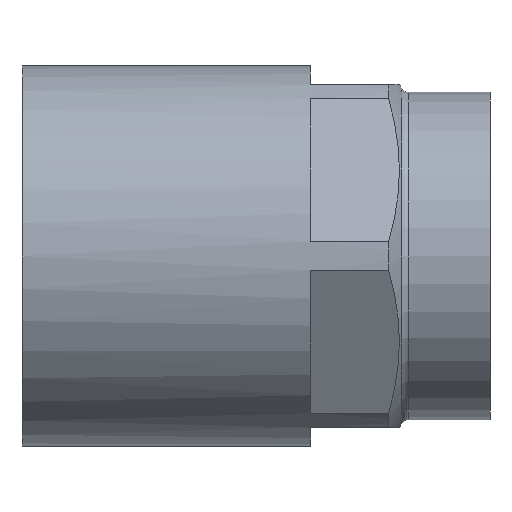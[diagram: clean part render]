
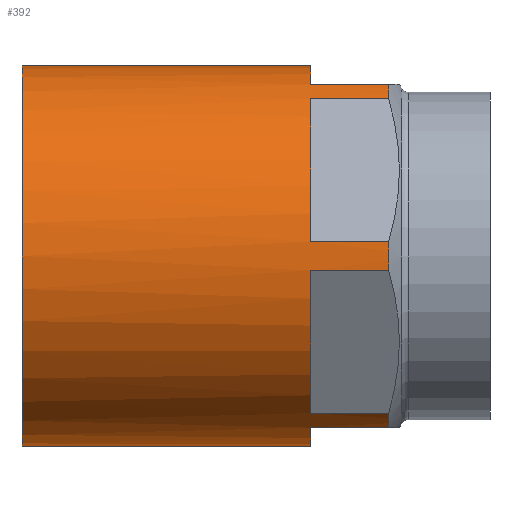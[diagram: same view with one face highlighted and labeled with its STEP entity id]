
A CAD part, front view. The second image highlights one B-rep face of the part: STEP entity #392.
In plain terms, the highlighted cylindrical face has radius 12.2 mm (diameter 24.4 mm), a full revolution.
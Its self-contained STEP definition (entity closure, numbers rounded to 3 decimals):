
#20=FACE_BOUND('',#105,.T.);
#35=CYLINDRICAL_SURFACE('',#426,12.2);
#41=CIRCLE('',#416,12.2);
#42=CIRCLE('',#418,12.2);
#43=CIRCLE('',#420,12.2);
#44=CIRCLE('',#422,12.2);
#45=CIRCLE('',#424,12.2);
#46=CIRCLE('',#427,12.2);
#47=CIRCLE('',#428,12.2);
#48=CIRCLE('',#429,12.2);
#49=CIRCLE('',#430,12.2);
#50=CIRCLE('',#431,12.2);
#51=CIRCLE('',#432,12.2);
#52=CIRCLE('',#433,12.2);
#53=CIRCLE('',#434,12.2);
#77=FACE_OUTER_BOUND('',#104,.T.);
#104=EDGE_LOOP('',(#296));
#105=EDGE_LOOP('',(#297,#298,#299,#300,#301,#302,#303,#304,#305,#306,#307,
#308,#309,#310,#311,#312,#313,#314,#315,#316,#317,#318,#319,#320));
#142=LINE('',#594,#160);
#144=LINE('',#598,#162);
#145=LINE('',#605,#163);
#147=LINE('',#609,#165);
#148=LINE('',#616,#166);
#150=LINE('',#620,#168);
#151=LINE('',#627,#169);
#153=LINE('',#631,#171);
#155=LINE('',#650,#173);
#156=LINE('',#655,#174);
#157=LINE('',#666,#175);
#158=LINE('',#670,#176);
#160=VECTOR('',#468,5.);
#162=VECTOR('',#470,5.);
#163=VECTOR('',#473,5.);
#165=VECTOR('',#475,5.);
#166=VECTOR('',#478,5.);
#168=VECTOR('',#480,5.);
#169=VECTOR('',#483,5.);
#171=VECTOR('',#485,5.);
#173=VECTOR('',#509,5.);
#174=VECTOR('',#510,5.);
#175=VECTOR('',#525,5.);
#176=VECTOR('',#528,5.);
#178=VERTEX_POINT('',#592);
#179=VERTEX_POINT('',#593);
#180=VERTEX_POINT('',#595);
#181=VERTEX_POINT('',#597);
#182=VERTEX_POINT('',#603);
#183=VERTEX_POINT('',#604);
#184=VERTEX_POINT('',#606);
#185=VERTEX_POINT('',#608);
#186=VERTEX_POINT('',#614);
#187=VERTEX_POINT('',#615);
#188=VERTEX_POINT('',#617);
#189=VERTEX_POINT('',#619);
#190=VERTEX_POINT('',#625);
#191=VERTEX_POINT('',#626);
#192=VERTEX_POINT('',#628);
#193=VERTEX_POINT('',#630);
#194=VERTEX_POINT('',#644);
#195=VERTEX_POINT('',#645);
#196=VERTEX_POINT('',#649);
#197=VERTEX_POINT('',#651);
#198=VERTEX_POINT('',#657);
#199=VERTEX_POINT('',#663);
#200=VERTEX_POINT('',#665);
#201=VERTEX_POINT('',#667);
#202=VERTEX_POINT('',#669);
#216=EDGE_CURVE('',#178,#179,#142,.T.);
#218=EDGE_CURVE('',#181,#180,#144,.T.);
#220=EDGE_CURVE('',#182,#183,#145,.T.);
#222=EDGE_CURVE('',#185,#184,#147,.T.);
#224=EDGE_CURVE('',#186,#187,#148,.T.);
#226=EDGE_CURVE('',#189,#188,#150,.T.);
#228=EDGE_CURVE('',#190,#191,#151,.T.);
#230=EDGE_CURVE('',#193,#192,#153,.T.);
#232=EDGE_CURVE('',#184,#182,#41,.T.);
#233=EDGE_CURVE('',#188,#186,#42,.T.);
#234=EDGE_CURVE('',#192,#190,#43,.T.);
#235=EDGE_CURVE('',#180,#178,#44,.T.);
#236=EDGE_CURVE('',#194,#195,#45,.T.);
#238=EDGE_CURVE('',#196,#194,#155,.T.);
#240=EDGE_CURVE('',#195,#197,#156,.T.);
#241=EDGE_CURVE('',#198,#198,#46,.T.);
#242=EDGE_CURVE('',#185,#197,#47,.T.);
#243=EDGE_CURVE('',#189,#183,#48,.T.);
#244=EDGE_CURVE('',#193,#187,#49,.T.);
#245=EDGE_CURVE('',#181,#191,#50,.T.);
#246=EDGE_CURVE('',#199,#179,#51,.T.);
#247=EDGE_CURVE('',#199,#200,#157,.T.);
#248=EDGE_CURVE('',#200,#201,#52,.T.);
#249=EDGE_CURVE('',#201,#202,#158,.T.);
#250=EDGE_CURVE('',#196,#202,#53,.T.);
#296=ORIENTED_EDGE('',*,*,#241,.T.);
#297=ORIENTED_EDGE('',*,*,#238,.T.);
#298=ORIENTED_EDGE('',*,*,#236,.T.);
#299=ORIENTED_EDGE('',*,*,#240,.T.);
#300=ORIENTED_EDGE('',*,*,#242,.F.);
#301=ORIENTED_EDGE('',*,*,#222,.T.);
#302=ORIENTED_EDGE('',*,*,#232,.T.);
#303=ORIENTED_EDGE('',*,*,#220,.T.);
#304=ORIENTED_EDGE('',*,*,#243,.F.);
#305=ORIENTED_EDGE('',*,*,#226,.T.);
#306=ORIENTED_EDGE('',*,*,#233,.T.);
#307=ORIENTED_EDGE('',*,*,#224,.T.);
#308=ORIENTED_EDGE('',*,*,#244,.F.);
#309=ORIENTED_EDGE('',*,*,#230,.T.);
#310=ORIENTED_EDGE('',*,*,#234,.T.);
#311=ORIENTED_EDGE('',*,*,#228,.T.);
#312=ORIENTED_EDGE('',*,*,#245,.F.);
#313=ORIENTED_EDGE('',*,*,#218,.T.);
#314=ORIENTED_EDGE('',*,*,#235,.T.);
#315=ORIENTED_EDGE('',*,*,#216,.T.);
#316=ORIENTED_EDGE('',*,*,#246,.F.);
#317=ORIENTED_EDGE('',*,*,#247,.T.);
#318=ORIENTED_EDGE('',*,*,#248,.T.);
#319=ORIENTED_EDGE('',*,*,#249,.T.);
#320=ORIENTED_EDGE('',*,*,#250,.F.);
#392=ADVANCED_FACE('',(#77,#20),#35,.T.);
#416=AXIS2_PLACEMENT_3D('',#636,#488,#489);
#418=AXIS2_PLACEMENT_3D('',#638,#492,#493);
#420=AXIS2_PLACEMENT_3D('',#640,#496,#497);
#422=AXIS2_PLACEMENT_3D('',#642,#500,#501);
#424=AXIS2_PLACEMENT_3D('',#646,#504,#505);
#426=AXIS2_PLACEMENT_3D('',#656,#511,#512);
#427=AXIS2_PLACEMENT_3D('',#658,#513,#514);
#428=AXIS2_PLACEMENT_3D('',#659,#515,#516);
#429=AXIS2_PLACEMENT_3D('',#660,#517,#518);
#430=AXIS2_PLACEMENT_3D('',#661,#519,#520);
#431=AXIS2_PLACEMENT_3D('',#662,#521,#522);
#432=AXIS2_PLACEMENT_3D('',#664,#523,#524);
#433=AXIS2_PLACEMENT_3D('',#668,#526,#527);
#434=AXIS2_PLACEMENT_3D('',#671,#529,#530);
#468=DIRECTION('',(1.,0.,0.));
#470=DIRECTION('',(-1.,0.,0.));
#473=DIRECTION('',(1.,0.,0.));
#475=DIRECTION('',(-1.,0.,0.));
#478=DIRECTION('',(1.,0.,0.));
#480=DIRECTION('',(-1.,0.,0.));
#483=DIRECTION('',(1.,0.,0.));
#485=DIRECTION('',(-1.,0.,0.));
#488=DIRECTION('center_axis',(-1.,0.,0.));
#489=DIRECTION('ref_axis',(0.,1.,0.));
#492=DIRECTION('center_axis',(-1.,0.,0.));
#493=DIRECTION('ref_axis',(0.,1.,0.));
#496=DIRECTION('center_axis',(-1.,0.,0.));
#497=DIRECTION('ref_axis',(0.,1.,0.));
#500=DIRECTION('center_axis',(-1.,0.,0.));
#501=DIRECTION('ref_axis',(0.,1.,0.));
#504=DIRECTION('center_axis',(-1.,0.,0.));
#505=DIRECTION('ref_axis',(0.,1.,0.));
#509=DIRECTION('',(-1.,0.,0.));
#510=DIRECTION('',(1.,0.,0.));
#511=DIRECTION('center_axis',(1.,0.,0.));
#512=DIRECTION('ref_axis',(0.,1.,0.));
#513=DIRECTION('center_axis',(1.,0.,0.));
#514=DIRECTION('ref_axis',(0.,1.,0.));
#515=DIRECTION('center_axis',(1.,0.,0.));
#516=DIRECTION('ref_axis',(0.,1.,0.));
#517=DIRECTION('center_axis',(1.,0.,0.));
#518=DIRECTION('ref_axis',(0.,1.,0.));
#519=DIRECTION('center_axis',(1.,0.,0.));
#520=DIRECTION('ref_axis',(0.,1.,0.));
#521=DIRECTION('center_axis',(1.,0.,0.));
#522=DIRECTION('ref_axis',(0.,1.,0.));
#523=DIRECTION('center_axis',(1.,0.,0.));
#524=DIRECTION('ref_axis',(0.,1.,0.));
#525=DIRECTION('',(-1.,0.,0.));
#526=DIRECTION('center_axis',(-1.,0.,0.));
#527=DIRECTION('ref_axis',(0.,1.,0.));
#528=DIRECTION('',(1.,0.,0.));
#529=DIRECTION('center_axis',(1.,0.,0.));
#530=DIRECTION('ref_axis',(0.,1.,0.));
#592=CARTESIAN_POINT('',(18.5,-6.888,10.069));
#593=CARTESIAN_POINT('',(23.5,-6.888,10.069));
#594=CARTESIAN_POINT('',(11.75,-6.888,10.069));
#595=CARTESIAN_POINT('',(18.5,-12.164,0.931));
#597=CARTESIAN_POINT('',(23.5,-12.164,0.931));
#598=CARTESIAN_POINT('',(11.75,-12.164,0.931));
#603=CARTESIAN_POINT('',(18.5,6.888,-10.069));
#604=CARTESIAN_POINT('',(23.5,6.888,-10.069));
#605=CARTESIAN_POINT('',(11.75,6.888,-10.069));
#606=CARTESIAN_POINT('',(18.5,12.164,-0.931));
#608=CARTESIAN_POINT('',(23.5,12.164,-0.931));
#609=CARTESIAN_POINT('',(11.75,12.164,-0.931));
#614=CARTESIAN_POINT('',(18.5,-5.276,-11.));
#615=CARTESIAN_POINT('',(23.5,-5.276,-11.));
#616=CARTESIAN_POINT('',(11.75,-5.276,-11.));
#617=CARTESIAN_POINT('',(18.5,5.276,-11.));
#619=CARTESIAN_POINT('',(23.5,5.276,-11.));
#620=CARTESIAN_POINT('',(11.75,5.276,-11.));
#625=CARTESIAN_POINT('',(18.5,-12.164,-0.931));
#626=CARTESIAN_POINT('',(23.5,-12.164,-0.931));
#627=CARTESIAN_POINT('',(11.75,-12.164,-0.931));
#628=CARTESIAN_POINT('',(18.5,-6.888,-10.069));
#630=CARTESIAN_POINT('',(23.5,-6.888,-10.069));
#631=CARTESIAN_POINT('',(11.75,-6.888,-10.069));
#636=CARTESIAN_POINT('Origin',(18.5,0.,0.));
#638=CARTESIAN_POINT('Origin',(18.5,0.,0.));
#640=CARTESIAN_POINT('Origin',(18.5,0.,0.));
#642=CARTESIAN_POINT('Origin',(18.5,0.,0.));
#644=CARTESIAN_POINT('',(18.5,6.888,10.069));
#645=CARTESIAN_POINT('',(18.5,12.164,0.931));
#646=CARTESIAN_POINT('Origin',(18.5,0.,0.));
#649=CARTESIAN_POINT('',(23.5,6.888,10.069));
#650=CARTESIAN_POINT('',(11.75,6.888,10.069));
#651=CARTESIAN_POINT('',(23.5,12.164,0.931));
#655=CARTESIAN_POINT('',(11.75,12.164,0.931));
#656=CARTESIAN_POINT('Origin',(11.75,0.,0.));
#657=CARTESIAN_POINT('',(0.,12.2,0.));
#658=CARTESIAN_POINT('Origin',(0.,0.,
0.));
#659=CARTESIAN_POINT('Origin',(23.5,0.,0.));
#660=CARTESIAN_POINT('Origin',(23.5,0.,0.));
#661=CARTESIAN_POINT('Origin',(23.5,0.,0.));
#662=CARTESIAN_POINT('Origin',(23.5,0.,0.));
#663=CARTESIAN_POINT('',(23.5,-5.276,11.));
#664=CARTESIAN_POINT('Origin',(23.5,0.,0.));
#665=CARTESIAN_POINT('',(18.5,-5.276,11.));
#666=CARTESIAN_POINT('',(11.75,-5.276,11.));
#667=CARTESIAN_POINT('',(18.5,5.276,11.));
#668=CARTESIAN_POINT('Origin',(18.5,0.,0.));
#669=CARTESIAN_POINT('',(23.5,5.276,11.));
#670=CARTESIAN_POINT('',(11.75,5.276,11.));
#671=CARTESIAN_POINT('Origin',(23.5,0.,0.));
